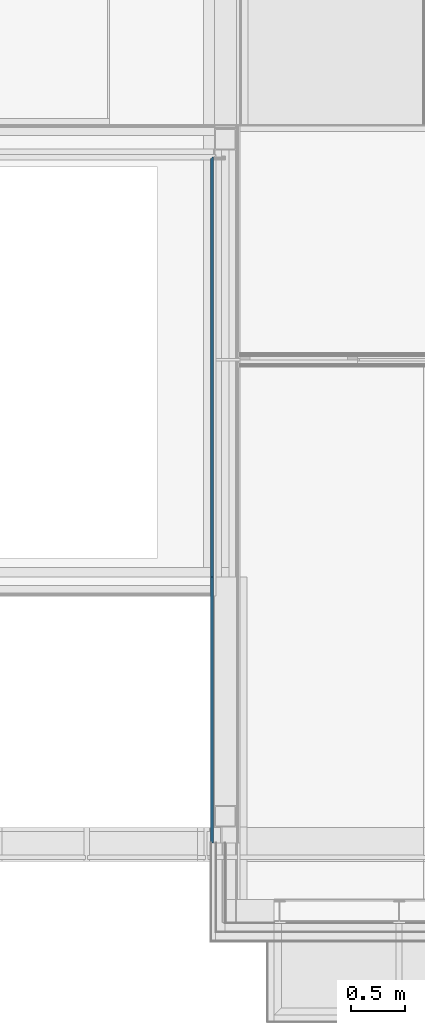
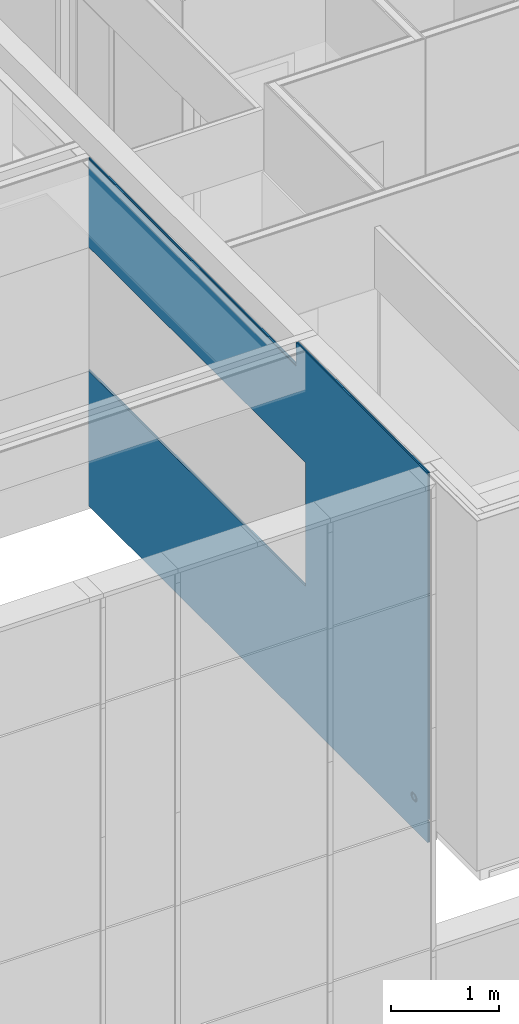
# One storey, part 65 of 137: 2 building element parts, 1 opening, 1 element without a shape of its own.
"""IFC2X3 building model written with IfcOpenShell, lengths in millimetres."""

import ifcopenshell
import ifcopenshell.guid

model = None  # the IFC model being written
_history = None  # IfcOwnerHistory: only IFC2X3 demands one
_inside = {}  # id of a spatial element -> (the spatial element, [elements in it])
_under = {}  # id of a project, library or spatial element -> (it, [spatial elements below it])
_declared = {}  # id of a project -> (the project, [libraries it declares])
_typed = {}  # id of a type object -> (the type object, [elements of that type])
_made_of = {}  # id of a material, layer set ... -> (it, [elements and type objects made of it])


def new_model(schema):
    """Start an empty IFC model of exactly this schema.

    Asked for "IFC4X3", IfcOpenShell would pick the latest addendum, in which some entities
    have other attributes; the version numbers below select the first issue.
    IFC2X3 requires an IfcOwnerHistory on every rooted entity: one is made here for all.
    """
    global model, _history
    if schema == "IFC4X3":
        model = ifcopenshell.file(schema_version=(4, 3, 0, 0))
    else:
        model = ifcopenshell.file(schema=schema)
    _inside.clear()
    _under.clear()
    _declared.clear()
    _typed.clear()
    _made_of.clear()
    _history = None
    if model.schema == "IFC2X3":
        org = make("IfcOrganization", Name="unknown")
        user = make(
            "IfcPersonAndOrganization",
            ThePerson=make("IfcPerson", FamilyName="unknown"),
            TheOrganization=org,
        )
        app = make(
            "IfcApplication",
            ApplicationDeveloper=org,
            Version="unknown",
            ApplicationFullName="unknown",
            ApplicationIdentifier="unknown",
        )
        _history = make(
            "IfcOwnerHistory",
            OwningUser=user,
            OwningApplication=app,
            ChangeAction="ADDED",
            CreationDate=0,
        )
    return model


def make(cls, **values):
    """One entity of the class cls with the attributes given. An attribute that is None is left unset."""
    return model.create_entity(
        cls, **{name: value for name, value in values.items() if value is not None}
    )


def entity(cls, *values):
    """Any entity or typed value of the class cls, its attributes in the order of the schema. None: left unset."""
    e = model.create_entity(cls)
    for i, value in enumerate(values):
        if value is not None:
            e[i] = value
    return e


def rooted(cls, **values):
    """An entity with a GlobalId (a new one), such as an element, a storey or a relation."""
    return make(cls, GlobalId=ifcopenshell.guid.new(), OwnerHistory=_history, **values)


def si_unit(unit_type, name, prefix=None):
    """IfcSIUnit, for example si_unit("LENGTHUNIT", "METRE", prefix="MILLI")."""
    return make("IfcSIUnit", UnitType=unit_type, Prefix=prefix, Name=name)


def converted_unit(unit_type, name, factor, base, dimensions=None, offset=None):
    """IfcConversionBasedUnit, such as the inch: factor (a typed value) times the base unit."""
    return make(
        "IfcConversionBasedUnit"
        if offset is None
        else "IfcConversionBasedUnitWithOffset",
        ConversionOffset=offset,
        Dimensions=None
        if dimensions is None
        else entity("IfcDimensionalExponents", *dimensions),
        UnitType=unit_type,
        Name=name,
        ConversionFactor=make(
            "IfcMeasureWithUnit", ValueComponent=factor, UnitComponent=base
        ),
    )


def derived_unit(unit_type, elements):
    """IfcDerivedUnit: a product of units, each with its exponent."""
    return make(
        "IfcDerivedUnit",
        Elements=[
            make("IfcDerivedUnitElement", Unit=unit, Exponent=power)
            for unit, power in elements
        ],
        UnitType=unit_type,
    )


def money_unit(currency):
    """IfcMonetaryUnit."""
    return make("IfcMonetaryUnit", Currency=currency)


def assignment(units):
    """IfcUnitAssignment: the units of a project."""
    return None if units is None else make("IfcUnitAssignment", Units=units)


def point(xyz):
    """IfcCartesianPoint."""
    return None if xyz is None else make("IfcCartesianPoint", Coordinates=xyz)


def direction(xyz):
    """IfcDirection."""
    return None if xyz is None else make("IfcDirection", DirectionRatios=xyz)


def frame(location, z_axis=None, x_axis=None):
    """IfcAxis2Placement3D, a coordinate frame: its origin and axes. An axis left out is left unset."""
    return make(
        "IfcAxis2Placement3D",
        Location=point(location),
        Axis=direction(z_axis),
        RefDirection=direction(x_axis),
    )


def origin_with_axes():
    """The frame at (0, 0, 0) with the z axis (0, 0, 1) and the x axis (1, 0, 0) written out."""
    return frame((0.0, 0.0, 0.0), z_axis=(0.0, 0.0, 1.0), x_axis=(1.0, 0.0, 0.0))


def place(relative_to, where):
    """IfcLocalPlacement: puts the frame where relative to a parent placement (None: the world)."""
    return make(
        "IfcLocalPlacement", PlacementRelTo=relative_to, RelativePlacement=where
    )


def context(
    kind, dimensions, precision=None, world=None, true_north=None, identifier=None
):
    """IfcGeometricRepresentationContext, for example the 3D "Model" context."""
    return make(
        "IfcGeometricRepresentationContext",
        ContextIdentifier=identifier,
        ContextType=kind,
        CoordinateSpaceDimension=dimensions,
        Precision=precision,
        WorldCoordinateSystem=world,
        TrueNorth=true_north,
    )


def subcontext(parent, identifier, kind, view, scale=None):
    """IfcGeometricRepresentationSubContext, for example "Body" below "Model"."""
    return make(
        "IfcGeometricRepresentationSubContext",
        ContextIdentifier=identifier,
        ContextType=kind,
        ParentContext=parent,
        TargetScale=scale,
        TargetView=view,
    )


def project(units=None, contexts=None):
    """IfcProject with its units and contexts."""
    return rooted(
        "IfcProject",
        Name="project",
        RepresentationContexts=contexts,
        UnitsInContext=assignment(units),
    )


def spatial(cls, under=None, at=None, **own):
    """A site, building, storey or space (cls), placed at a placement, below another one or the project."""
    s = rooted(cls, ObjectPlacement=at, **own)
    if under is not None:
        _under.setdefault(under.id(), (under, []))[1].append(s)
    return s


def faces_of(points, faces, orient=None, outer=None):
    """IfcFace entities. A face is a list of loops; a loop is a list of indices into points, from 0.

    orient and outer hold one flag for each loop. By default every Orientation is true, the
    first loop of a face is its IfcFaceOuterBound and the others are IfcFaceBound.
    """
    made = []
    for i, loops in enumerate(faces):
        bounds = []
        for j, loop in enumerate(loops):
            is_outer = j == 0 if outer is None else outer[i][j]
            bounds.append(
                make(
                    "IfcFaceOuterBound" if is_outer else "IfcFaceBound",
                    Bound=make("IfcPolyLoop", Polygon=[points[k] for k in loop]),
                    Orientation=True if orient is None else orient[i][j],
                )
            )
        made.append(make("IfcFace", Bounds=bounds))
    return made


def faceted_brep(points, faces, orient=None, outer=None, voids=None):
    """IfcFacetedBrep: a solid bounded by flat faces; with voids (closed shells), ...WithVoids."""
    shared = [point(p) for p in points]
    hull = make("IfcClosedShell", CfsFaces=faces_of(shared, faces, orient, outer))
    if voids is None:
        return make("IfcFacetedBrep", Outer=hull)
    return make(
        "IfcFacetedBrepWithVoids",
        Outer=hull,
        Voids=[
            make(cls, CfsFaces=faces_of(shared, fs, o, b)) for cls, fs, o, b in voids
        ],
    )


def shape(context_of_items, identifier, shape_type, items):
    """IfcShapeRepresentation: the items that make up one representation, for example the "Body"."""
    return make(
        "IfcShapeRepresentation",
        ContextOfItems=context_of_items,
        RepresentationIdentifier=identifier,
        RepresentationType=shape_type,
        Items=items,
    )


def material(Name=None, Category=None):
    """IfcMaterial."""
    return make("IfcMaterial", Name=Name, Category=Category)


def made_of(thing, what):
    """Note that an element or type object is made of a material, layer set ...; save() writes the relation."""
    if what is not None:
        _made_of.setdefault(what.id(), (what, []))[1].append(thing)
    return thing


def type_object(cls, material=None, **own):
    """A type object (cls), such as IfcWallType, which elements share."""
    return made_of(rooted(cls, **own), material)


def element(
    cls,
    number,
    at=None,
    inside=None,
    cuts=None,
    type_object=None,
    material=None,
    context=None,
    identifier="Body",
    shape_type=None,
    held_by="IfcProductDefinitionShape",
    body=None,
    shapes=None,
    **own,
):
    """One element of the class cls, such as IfcWall. Its Tag is "e" and its number.

    at: its placement. inside: the storey or other place that contains it. cuts: it is an
    opening in that element (IfcRelVoidsElement). A single representation is given by context,
    identifier, shape_type and body (its items); several are given by shapes. held_by: the class
    of the entity that holds the representations. save() writes the other relations.
    """
    e = rooted(cls, Tag="e%d" % number, ObjectPlacement=at, **own)
    if body is not None:
        shapes = [shape(context, identifier, shape_type, body)]
    if shapes is not None:
        e.Representation = make(held_by, Representations=shapes)
    if inside is not None:
        _inside.setdefault(inside.id(), (inside, []))[1].append(e)
    if cuts is not None:
        rooted(
            "IfcRelVoidsElement", RelatingBuildingElement=cuts, RelatedOpeningElement=e
        )
    if type_object is not None:
        _typed.setdefault(type_object.id(), (type_object, []))[1].append(e)
    return made_of(e, material)


def aggregate(whole, parts):
    """IfcRelAggregates: a whole, such as a stair, and the parts it consists of."""
    return rooted("IfcRelAggregates", RelatingObject=whole, RelatedObjects=parts)


def save(model, path):
    """Write the relations noted so far, then the file.

    IfcRelAggregates (storeys below a building ...), IfcRelContainedInSpatialStructure (elements
    in a storey), IfcRelDefinesByType, IfcRelAssociatesMaterial and IfcRelDeclares: one each for
    every whole, place, type object, material and project.
    """
    for whole, parts in _under.values():
        aggregate(whole, parts)
    for where, things in _inside.values():
        rooted(
            "IfcRelContainedInSpatialStructure",
            RelatedElements=things,
            RelatingStructure=where,
        )
    for kind, things in _typed.values():
        rooted("IfcRelDefinesByType", RelatedObjects=things, RelatingType=kind)
    for what, things in _made_of.values():
        rooted("IfcRelAssociatesMaterial", RelatedObjects=things, RelatingMaterial=what)
    for by, libraries in _declared.values():
        rooted("IfcRelDeclares", RelatingContext=by, RelatedDefinitions=libraries)
    model.write(path)


model = new_model("IFC2X3")

# Units and contexts
model_context = context("Model", 3, precision=0.01, world=origin_with_axes(), true_north=direction((0.0, 1.0)))
body_context = subcontext(model_context, "Body", "Model", "MODEL_VIEW")
ifc_project = project(units=[si_unit("LENGTHUNIT", "METRE", prefix="MILLI"), si_unit("AREAUNIT", "SQUARE_METRE"), si_unit("VOLUMEUNIT", "CUBIC_METRE"), converted_unit("PLANEANGLEUNIT", "DEGREE", entity("IfcPlaneAngleMeasure", 0.0174532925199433), si_unit("PLANEANGLEUNIT", "RADIAN"), dimensions=[0, 0, 0, 0, 0, 0, 0]), money_unit("EUR"), converted_unit("TIMEUNIT", "Year", entity("IfcTimeMeasure", 31556926.0), si_unit("TIMEUNIT", "SECOND"), dimensions=[0, 0, 1, 0, 0, 0, 0]), si_unit("MASSUNIT", "GRAM", prefix="KILO"), si_unit("THERMODYNAMICTEMPERATUREUNIT", "DEGREE_CELSIUS"), si_unit("LUMINOUSINTENSITYUNIT", "LUMEN"), si_unit("ENERGYUNIT", "JOULE", prefix="MEGA"), derived_unit("THERMALCONDUCTANCEUNIT", [(si_unit("POWERUNIT", "WATT"), 1), (si_unit("LENGTHUNIT", "METRE"), -1), (si_unit("THERMODYNAMICTEMPERATUREUNIT", "KELVIN"), -1)]), derived_unit("SPECIFICHEATCAPACITYUNIT", [(si_unit("ENERGYUNIT", "JOULE"), 1), (si_unit("MASSUNIT", "GRAM", prefix="KILO"), -1), (si_unit("THERMODYNAMICTEMPERATUREUNIT", "KELVIN"), -1)]), derived_unit("MASSDENSITYUNIT", [(si_unit("MASSUNIT", "GRAM", prefix="KILO"), 1), (si_unit("VOLUMEUNIT", "CUBIC_METRE"), -1)])], contexts=[model_context])

# Site, building, storey
site_placement = place(None, origin_with_axes())
site = spatial("IfcSite", under=ifc_project, at=site_placement, Name="Site", CompositionType="ELEMENT")
building_placement = place(site_placement, origin_with_axes())
building = spatial("IfcBuilding", under=site, at=building_placement, Name="Naam gebouw", CompositionType="ELEMENT")
storey_placement = place(building_placement, frame((0.0, 0.0, 3960.0), z_axis=(0.0, 0.0, 1.0), x_axis=(1.0, 0.0, 0.0)))
storey = spatial("IfcBuildingStorey", under=building, at=storey_placement, Name="1e verdieping", CompositionType="ELEMENT", Elevation=3960.0)

# Proxy, opening, building element parts
building_element_proxy_type = type_object("IfcBuildingElementProxyType", Name="22 Metal stud 270 270", PredefinedType="NOTDEFINED")
proxy_placement = place(storey_placement, frame((24499.99903999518, 4334.757636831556, -330.0000000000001), z_axis=(0.0, 0.0, 1.0), x_axis=(0.0, 1.0, 0.0)))
proxy = element("IfcBuildingElementProxy", 1, at=proxy_placement, inside=storey, type_object=building_element_proxy_type, Name="_Wand-x")
opening_placement = place(proxy_placement, frame((4277.742418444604, 0.0, 1530.0), z_axis=(0.0, 0.0, 1.0), x_axis=(1.0, 0.0, 0.0)))
element("IfcOpeningElement", 2, at=opening_placement, cuts=proxy, Name="_A.01b", context=body_context, shape_type="Brep", body=[
    faceted_brep([(-2007.500055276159, -136.0000000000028, 1400.0), (-2007.500055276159, -136.0000000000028, 0.0), (2332.50005527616, -136.0000000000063, 0.0), (2332.50005527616, -136.0000000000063, 1400.0), (-2007.500055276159, 136.0000000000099, 1400.0), (-2007.500055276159, 136.0000000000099, 0.0), (2006.296351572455, 136.0000000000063, 0.0), (2332.50005527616, -134.999999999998, 0.0), (2332.50005527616, -134.999999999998, 1400.0), (2006.296351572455, 136.0000000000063, 1400.0)], [[[0, 1, 2, 3]], [[4, 5, 1, 0]], [[5, 6, 7, 2, 1]], [[8, 3, 2, 7]], [[9, 4, 0, 3, 8]], [[6, 5, 4, 9]], [[7, 6, 9, 8]]]),
])
ifc_material = material(Name="Gipsplaat")
building_element_part_1_placement = place(proxy_placement, origin_with_axes())
building_element_part_1 = element("IfcBuildingElementPart", 3, at=building_element_part_1_placement, material=ifc_material, Name="Gipsplaat", context=body_context, shape_type="Brep", body=[
    faceted_brep([(2270.242363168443, 122.4999999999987, 1530.0), (2270.242363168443, 122.4999999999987, 2930.0), (6297.742473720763, 122.4999999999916, 2930.0), (6297.742473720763, 122.4999999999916, 3915.000029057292), (2445.242363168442, 122.4999999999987, 3915.000029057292), (2445.242363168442, 122.4999999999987, 3925.000029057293), (6297.742473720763, 122.4999999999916, 3925.000029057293), (6297.742473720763, 122.4999999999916, 3930.0), (6285.242473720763, 122.4999999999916, 3930.0), (2445.242363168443, 122.4999999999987, 3930.0), (2445.242363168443, 122.4999999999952, 4185.000047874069), (0.0, 122.4999999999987, 4185.000048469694), (0.0, 122.4999999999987, 259.9999978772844), (140.2423631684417, 122.4999999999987, 260.0000000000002), (140.2423631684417, 122.4999999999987, 230.0), (0.0, 122.4999999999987, 230.0), (0.0, 122.4999999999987, 0.0), (6297.742473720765, 122.4999999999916, 0.0), (6297.742473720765, 122.4999999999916, 1530.0), (213.8114667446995, 122.5000000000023, 396.430887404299), (228.2320845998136, 122.5000000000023, 406.0664362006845), (245.2423631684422, 122.5000000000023, 409.4499909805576), (255.7187340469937, 122.5000000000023, 407.3661112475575), (266.3446886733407, 122.5000000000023, 409.4499909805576), (283.5978434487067, 122.5000000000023, 406.0664362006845), (298.2243618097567, 122.5000000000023, 396.430887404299), (307.99748892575, 122.5000000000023, 382.010269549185), (311.4293547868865, 122.5000000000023, 364.9999909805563), (307.99748892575, 122.5000000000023, 347.9897124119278), (298.2243618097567, 122.5000000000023, 333.5690945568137), (283.5978434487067, 122.5000000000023, 323.9335457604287), (266.3446886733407, 122.5000000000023, 320.5499909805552), (255.7187340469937, 122.5000000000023, 322.6338707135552), (245.2423631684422, 122.5000000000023, 320.5499909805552), (228.2320845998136, 122.5000000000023, 323.9335457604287), (213.8114667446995, 122.5000000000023, 333.5690945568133), (204.175917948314, 122.5000000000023, 347.9897124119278), (200.7923631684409, 122.5000000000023, 364.9999909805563), (204.175917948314, 122.5000000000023, 382.010269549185), (2270.242363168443, 135.0000031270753, 1530.0), (2270.242363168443, 135.0000031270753, 2930.0), (6297.742473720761, 124.6153846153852, 2930.0), (6285.242469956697, 135.0000031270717, 2930.0), (6297.742473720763, 134.9999999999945, 2930.0), (6297.742473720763, 134.9999999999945, 3915.000029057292), (2445.242363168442, 135.0000000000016, 3915.000029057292), (2445.242363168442, 135.0000000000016, 3925.000029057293), (6297.742473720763, 134.9999999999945, 3925.000029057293), (6297.742473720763, 134.9999999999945, 3930.0), (6285.242473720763, 134.9999999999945, 3930.0), (2445.242363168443, 135.0000000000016, 3930.0), (2445.242363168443, 134.999999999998, 4185.000047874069), (0.0, 135.0000000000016, 4185.000048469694), (0.0, 128.0000000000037, 230.0), (0.0, 128.0000000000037, 259.9999997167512), (0.0, 135.0000000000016, 0.0), (140.2423631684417, 128.0000000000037, 260.0000000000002), (140.2423631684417, 128.0000000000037, 230.0), (6297.742473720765, 134.9999999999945, 0.0), (6297.742473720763, 124.6153846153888, 1530.0), (6297.742473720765, 134.9999999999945, 1530.0), (6285.242469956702, 135.0000031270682, 1530.0), (228.2320845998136, 135.0000000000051, 406.0664362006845), (213.8114667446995, 135.0000000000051, 396.430887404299), (245.2423631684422, 135.0000000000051, 409.4499909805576), (256.7711491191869, 135.0000000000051, 407.1567728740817), (268.4645454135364, 135.0000000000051, 409.4499909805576), (285.7177001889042, 135.0000000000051, 406.0664362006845), (300.3442185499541, 135.0000000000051, 396.430887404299), (310.1173456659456, 135.0000000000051, 382.010269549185), (313.5492115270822, 135.0000000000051, 364.9999909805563), (310.1173456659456, 135.0000000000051, 347.9897124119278), (300.3442185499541, 135.0000000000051, 333.5690945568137), (285.7177001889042, 135.0000000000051, 323.9335457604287), (268.4645454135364, 135.0000000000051, 320.5499909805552), (256.7711491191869, 135.0000000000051, 322.843209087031), (245.2423631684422, 135.0000000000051, 320.5499909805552), (228.2320845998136, 135.0000000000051, 323.9335457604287), (213.8114667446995, 135.0000000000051, 333.5690945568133), (204.175917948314, 135.0000000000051, 347.9897124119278), (200.7923631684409, 135.0000000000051, 364.9999909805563), (204.175917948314, 135.0000000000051, 382.010269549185)], [[[0, 1, 2, 3, 4, 5, 6, 7, 8, 9, 10, 11, 12, 13, 14, 15, 16, 17, 18], [19, 20, 21, 22, 23, 24, 25, 26, 27, 28, 29, 30, 31, 32, 33, 34, 35, 36, 37, 38]], [[1, 0, 39, 40]], [[41, 2, 1, 40, 42]], [[2, 41, 43, 44, 3]], [[45, 4, 3, 44]], [[46, 5, 4, 45]], [[46, 47, 6, 5]], [[7, 6, 47, 48]], [[7, 48, 49, 8]], [[49, 50, 9, 8]], [[9, 50, 51, 10]], [[52, 11, 10, 51]], [[16, 15, 53, 54, 12, 11, 52, 55]], [[12, 54, 56, 13]], [[13, 56, 57, 14]], [[14, 57, 53, 15]], [[17, 16, 55, 58]], [[59, 18, 17, 58, 60]], [[0, 18, 59, 61, 39]], [[62, 20, 19, 63]], [[64, 21, 20, 62]], [[64, 65, 22, 21]], [[23, 22, 65, 66]], [[67, 24, 23, 66]], [[68, 25, 24, 67]], [[69, 26, 25, 68]], [[70, 27, 26, 69]], [[71, 28, 27, 70]], [[72, 29, 28, 71]], [[73, 30, 29, 72]], [[74, 31, 30, 73]], [[74, 75, 32, 31]], [[76, 33, 32, 75]], [[77, 34, 33, 76]], [[78, 35, 34, 77]], [[79, 36, 35, 78]], [[80, 37, 36, 79]], [[81, 38, 37, 80]], [[63, 19, 38, 81]], [[39, 61, 60, 58, 55, 52, 51, 50, 49, 48, 47, 46, 45, 44, 43, 42, 40], [77, 76, 75, 74, 73, 72, 71, 70, 69, 68, 67, 66, 65, 64, 62, 63, 81, 80, 79, 78]], [[41, 42, 43]], [[53, 57, 56, 54]], [[61, 59, 60]]]),
    faceted_brep([(273.7401207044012, 122.5000000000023, 342.2737877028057), (280.7784855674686, 122.5000000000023, 356.8891029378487), (280.7784855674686, 122.5000000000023, 373.1108790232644), (273.7401207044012, 122.5000000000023, 387.726194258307), (261.0574254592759, 122.5000000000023, 397.8403062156), (255.7187340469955, 122.5000000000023, 399.0588276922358), (250.3038157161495, 122.5000000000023, 397.8403062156), (237.4400343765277, 122.5000000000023, 387.726194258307), (230.301174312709, 122.5000000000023, 373.1108790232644), (230.301174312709, 122.5000000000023, 356.8891029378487), (237.4400343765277, 122.5000000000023, 342.2737877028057), (250.3038157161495, 122.5000000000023, 332.1596757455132), (255.7187340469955, 122.5000000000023, 330.9411542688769), (261.0574254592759, 122.5000000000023, 332.1596757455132), (273.7401207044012, 135.0000000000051, 342.2737877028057), (280.7784855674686, 135.0000000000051, 356.8891029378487), (280.7784855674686, 135.0000000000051, 373.1108790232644), (273.7401207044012, 135.0000000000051, 387.726194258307), (261.0574254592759, 135.0000000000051, 397.8403062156), (256.7711491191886, 135.0000000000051, 398.8186208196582), (252.4236724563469, 135.0000000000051, 397.8403062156), (239.5598911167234, 135.0000000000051, 387.726194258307), (232.4210310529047, 135.0000000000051, 373.1108790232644), (232.4210310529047, 135.0000000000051, 356.8891029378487), (239.5598911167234, 135.0000000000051, 342.2737877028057), (252.4236724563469, 135.0000000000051, 332.1596757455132), (256.7711491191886, 135.0000000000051, 331.1813611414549), (261.0574254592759, 135.0000000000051, 332.1596757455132)], [[[0, 1, 2, 3, 4, 5, 6, 7, 8, 9, 10, 11, 12, 13]], [[1, 0, 14, 15]], [[2, 1, 15, 16]], [[3, 2, 16, 17]], [[4, 3, 17, 18]], [[5, 4, 18, 19]], [[5, 19, 20, 6]], [[7, 6, 20, 21]], [[8, 7, 21, 22]], [[9, 8, 22, 23]], [[10, 9, 23, 24]], [[11, 10, 24, 25]], [[26, 12, 11, 25]], [[13, 12, 26, 27]], [[0, 13, 27, 14]], [[27, 26, 25, 24, 23, 22, 21, 20, 19, 18, 17, 16, 15, 14]]]),
    faceted_brep([(243.6531237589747, 135.0000000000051, 401.0872574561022), (240.4094324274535, 122.5000000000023, 400.3469060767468), (234.465015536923, 122.5000000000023, 396.430887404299), (236.5848722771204, 135.0000000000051, 396.430887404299), (229.4273008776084, 122.5000000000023, 397.8403062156), (229.4273008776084, 135.0000000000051, 397.8403062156), (229.4273008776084, 122.5000000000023, 332.1596757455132), (240.4094324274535, 122.5000000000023, 329.6530758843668), (234.465015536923, 122.5000000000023, 333.5690945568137), (226.9143014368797, 122.5000000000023, 344.7104581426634), (226.9143014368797, 122.5000000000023, 385.2895238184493), (216.7446056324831, 122.5000000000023, 387.726194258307), (209.7062407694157, 122.5000000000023, 373.1108790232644), (209.7062407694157, 122.5000000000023, 356.8891029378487), (216.7446056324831, 122.5000000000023, 342.2737877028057), (224.7540187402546, 122.8663591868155, 382.010269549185), (226.8117451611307, 135.0000000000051, 382.010269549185), (223.3798792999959, 135.0000000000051, 364.9999909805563), (226.8117451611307, 135.0000000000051, 347.9897124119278), (236.5848722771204, 135.0000000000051, 333.5690945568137), (243.6531237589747, 135.0000000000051, 328.9127245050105), (229.4273008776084, 135.0000000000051, 332.1596757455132), (216.7446056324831, 135.0000000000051, 342.2737877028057), (209.7062407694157, 135.0000000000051, 356.8891029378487), (209.7062407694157, 135.0000000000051, 373.1108790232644), (216.7446056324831, 135.0000000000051, 387.726194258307), (224.7540187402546, 122.8663591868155, 347.9897124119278), (221.4180949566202, 123.4320936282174, 364.9999909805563)], [[[0, 1, 2, 3]], [[4, 1, 0, 5]], [[6, 7, 8, 9, 10, 2, 1, 4, 11, 12, 13, 14]], [[2, 10, 15, 16, 3]], [[5, 0, 3, 16, 17, 18, 19, 20, 21, 22, 23, 24, 25]], [[11, 4, 5, 25]], [[20, 7, 6, 21]], [[7, 20, 19, 8]], [[9, 8, 19, 18, 26]], [[10, 9, 26, 27, 15]], [[12, 11, 25, 24]], [[13, 12, 24, 23]], [[14, 13, 23, 22]], [[6, 14, 22, 21]], [[17, 16, 15, 27]], [[18, 17, 27, 26]]]),
    faceted_brep([(276.6732595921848, 122.5000000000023, 396.430887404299), (286.3088083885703, 122.5000000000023, 382.010269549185), (289.6923631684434, 122.5000000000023, 364.9999909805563), (286.3088083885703, 122.5000000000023, 347.9897124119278), (276.6732595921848, 122.5000000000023, 333.5690945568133), (270.592086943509, 122.5000000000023, 329.5057848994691), (282.385561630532, 122.5000000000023, 332.1596757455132), (295.2493429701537, 122.5000000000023, 342.2737877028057), (302.3882030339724, 122.5000000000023, 356.8891029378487), (302.3882030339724, 122.5000000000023, 373.1108790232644), (295.2493429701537, 122.5000000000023, 387.726194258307), (282.385561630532, 122.5000000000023, 397.8403062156), (270.592086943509, 122.5000000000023, 400.4941970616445), (276.6732595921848, 135.0000000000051, 396.430887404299), (286.3088083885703, 135.0000000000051, 382.010269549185), (289.6923631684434, 135.0000000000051, 364.9999909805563), (286.3088083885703, 135.0000000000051, 347.9897124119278), (276.6732595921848, 135.0000000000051, 333.5690945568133), (269.5156246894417, 135.0000000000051, 328.7865158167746), (284.5054183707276, 135.0000000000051, 332.1596757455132), (297.3691997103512, 135.0000000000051, 342.2737877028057), (304.5080597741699, 135.0000000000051, 356.8891029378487), (304.5080597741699, 135.0000000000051, 373.1108790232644), (297.3691997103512, 135.0000000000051, 387.726194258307), (284.5054183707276, 135.0000000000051, 397.8403062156), (269.5156246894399, 135.0000000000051, 401.2134661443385)], [[[0, 1, 2, 3, 4, 5, 6, 7, 8, 9, 10, 11, 12]], [[1, 0, 13, 14]], [[2, 1, 14, 15]], [[3, 2, 15, 16]], [[4, 3, 16, 17]], [[5, 4, 17, 18]], [[5, 18, 19, 6]], [[7, 6, 19, 20]], [[8, 7, 20, 21]], [[9, 8, 21, 22]], [[10, 9, 22, 23]], [[11, 10, 23, 24]], [[25, 12, 11, 24]], [[0, 12, 25, 13]], [[13, 25, 24, 23, 22, 21, 20, 19, 18, 17, 16, 15, 14]]]),
])
building_element_part_2_placement = place(proxy_placement, origin_with_axes())
building_element_part_2 = element("IfcBuildingElementPart", 4, at=building_element_part_2_placement, material=ifc_material, Name="Gipsplaat", context=body_context, shape_type="Brep", body=[
    faceted_brep([(2270.242363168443, 109.9999999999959, 1530.0), (2270.242363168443, 109.9999999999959, 2930.0), (6310.242473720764, 109.9999999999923, 2930.0), (6310.242473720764, 109.9999999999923, 3915.000029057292), (145.2423631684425, 109.9999999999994, 3914.999999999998), (145.2423631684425, 109.9999999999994, 3924.999999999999), (6310.242473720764, 109.9999999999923, 3925.000029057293), (6310.242473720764, 109.9999999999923, 3930.0), (6285.242473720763, 109.9999999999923, 3930.0), (2445.242363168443, 109.9999999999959, 3930.0), (2445.242363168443, 109.9999999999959, 4185.000047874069), (0.0, 109.9999999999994, 4185.000048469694), (0.0, 109.9999999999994, 259.9999978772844), (140.2423631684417, 109.9999999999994, 260.0000000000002), (140.2423631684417, 109.9999999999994, 230.0), (0.0, 109.9999999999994, 230.0), (0.0, 109.9999999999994, 0.0), (6310.242473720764, 109.9999999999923, 0.0), (6310.242473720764, 109.9999999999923, 1530.0), (300.622112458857, 109.9999999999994, 340.2349947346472), (300.622112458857, 109.9999999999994, 389.7649872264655), (305.8776321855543, 109.9999999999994, 382.010269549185), (309.309498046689, 109.9999999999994, 364.9999909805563), (305.8776321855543, 109.9999999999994, 347.9897124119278), (262.2526417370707, 109.9999999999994, 406.0664362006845), (276.6732595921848, 109.9999999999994, 396.430887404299), (286.3088083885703, 109.9999999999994, 382.010269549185), (289.6923631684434, 109.9999999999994, 364.9999909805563), (286.3088083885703, 109.9999999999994, 347.9897124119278), (276.6732595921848, 109.9999999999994, 333.5690945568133), (262.2526417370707, 109.9999999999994, 323.9335457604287), (245.2423631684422, 109.9999999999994, 320.5499909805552), (228.2320845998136, 109.9999999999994, 323.9335457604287), (213.8114667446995, 109.9999999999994, 333.5690945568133), (204.175917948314, 109.9999999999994, 347.9897124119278), (200.7923631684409, 109.9999999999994, 364.9999909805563), (204.175917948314, 109.9999999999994, 382.010269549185), (213.8114667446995, 109.9999999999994, 396.430887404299), (228.2320845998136, 109.9999999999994, 406.0664362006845), (245.2423631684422, 109.9999999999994, 409.4499909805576), (2270.242363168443, 122.4999999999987, 1530.0), (2270.242363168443, 122.4999999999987, 2930.0), (6310.242473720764, 114.2307692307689, 2930.0), (6300.288770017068, 122.4999999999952, 2930.0), (6310.242473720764, 122.4999999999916, 2930.0), (6310.242473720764, 122.4999999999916, 3915.000029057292), (2445.242363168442, 122.4999999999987, 3915.000029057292), (2445.242363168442, 116.0000000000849, 3915.000029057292), (145.2423631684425, 116.0000000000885, 3914.999999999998), (145.2423631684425, 116.0000000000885, 3924.999999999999), (2445.242363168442, 116.0000000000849, 3925.000029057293), (2445.242363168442, 122.4999999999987, 3925.000029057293), (6310.242473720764, 122.4999999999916, 3925.000029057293), (6310.242473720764, 122.4999999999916, 3930.0), (6285.242473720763, 122.4999999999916, 3930.0), (2445.242363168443, 122.4999999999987, 3930.0), (2445.242363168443, 122.4999999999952, 4185.000047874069), (0.0, 122.4999999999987, 4185.000048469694), (0.0, 122.4999999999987, 259.9999978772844), (140.2423631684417, 122.4999999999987, 260.0000000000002), (140.2423631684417, 122.4999999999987, 230.0), (0.0, 122.4999999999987, 230.0), (0.0, 122.4999999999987, 0.0), (6310.242473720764, 122.4999999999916, 0.0), (6310.242473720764, 114.2307692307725, 1530.0), (6310.242473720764, 122.4999999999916, 1530.0), (6300.288770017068, 122.4999999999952, 1530.0), (255.3132481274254, 117.683864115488, 322.5532145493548), (262.2526417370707, 116.5070224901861, 323.9335457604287), (271.239431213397, 114.9829659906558, 329.938326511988), (280.8347935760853, 113.3557025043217, 332.1596757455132), (293.338951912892, 111.2351405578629, 342.2737877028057), (300.2782362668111, 110.0583174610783, 356.8891029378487), (300.2782362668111, 110.0583174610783, 373.1108790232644), (293.338951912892, 111.2351405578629, 387.726194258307), (280.8347935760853, 113.3557025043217, 397.8403062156), (271.239431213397, 114.9829659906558, 400.0616554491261), (262.2526417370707, 116.5070224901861, 406.0664362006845), (255.3132481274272, 117.683864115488, 407.4467674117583), (265.2423631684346, 115.9999999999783, 409.4499909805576), (282.0131845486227, 113.1558609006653, 406.0664362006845), (296.2308004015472, 110.7447161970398, 396.430887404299), (296.2308004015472, 110.7447161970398, 333.5690945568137), (282.0131845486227, 113.1558609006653, 323.9335457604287), (265.2423631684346, 115.9999999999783, 320.5499909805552), (307.99748892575, 122.5000000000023, 382.010269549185), (298.2243618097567, 122.5000000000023, 396.430887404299), (311.4293547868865, 122.5000000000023, 364.9999909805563), (307.99748892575, 122.5000000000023, 347.9897124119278), (298.2243618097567, 122.5000000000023, 333.5690945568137), (276.6732595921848, 122.5000000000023, 396.430887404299), (270.592086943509, 122.5000000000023, 400.4941970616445), (286.3088083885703, 122.5000000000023, 382.010269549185), (289.6923631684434, 122.5000000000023, 364.9999909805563), (286.3088083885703, 122.5000000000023, 347.9897124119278), (276.6732595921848, 122.5000000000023, 333.5690945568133), (270.592086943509, 122.5000000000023, 329.5057848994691), (245.2423631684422, 122.5000000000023, 320.5499909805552), (255.7187340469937, 122.5000000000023, 322.6338707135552), (228.2320845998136, 122.5000000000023, 323.9335457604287), (213.8114667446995, 122.5000000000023, 333.5690945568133), (204.175917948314, 122.5000000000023, 347.9897124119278), (200.7923631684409, 122.5000000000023, 364.9999909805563), (204.175917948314, 122.5000000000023, 382.010269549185), (213.8114667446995, 122.5000000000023, 396.430887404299), (228.2320845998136, 122.5000000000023, 406.0664362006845), (245.2423631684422, 122.5000000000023, 409.4499909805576), (255.7187340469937, 122.5000000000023, 407.3661112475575), (266.3446886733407, 122.5000000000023, 320.5499909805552), (283.5978434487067, 122.5000000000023, 323.9335457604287), (283.5978434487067, 122.5000000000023, 406.0664362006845), (266.3446886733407, 122.5000000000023, 409.4499909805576), (282.385561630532, 122.5000000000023, 332.1596757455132), (295.2493429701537, 122.5000000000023, 342.2737877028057), (302.3882030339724, 122.5000000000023, 356.8891029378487), (302.3882030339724, 122.5000000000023, 373.1108790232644), (295.2493429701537, 122.5000000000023, 387.726194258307), (282.385561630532, 122.5000000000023, 397.8403062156)], [[[0, 1, 2, 3, 4, 5, 6, 7, 8, 9, 10, 11, 12, 13, 14, 15, 16, 17, 18], [19, 20, 21, 22, 23], [24, 25, 26, 27, 28, 29, 30, 31, 32, 33, 34, 35, 36, 37, 38, 39]], [[1, 0, 40, 41]], [[42, 2, 1, 41, 43]], [[2, 42, 44, 45, 3]], [[4, 3, 45, 46, 47, 48]], [[49, 5, 4, 48]], [[49, 50, 51, 52, 6, 5]], [[7, 6, 52, 53]], [[7, 53, 54, 8]], [[54, 55, 9, 8]], [[9, 55, 56, 10]], [[57, 11, 10, 56]], [[12, 11, 57, 58]], [[12, 58, 59, 13]], [[13, 59, 60, 14]], [[14, 60, 61, 15]], [[61, 62, 16, 15]], [[17, 16, 62, 63]], [[64, 18, 17, 63, 65]], [[0, 18, 64, 66, 40]], [[67, 68, 69, 70, 71, 72, 73, 74, 75, 76, 77, 78, 79, 80, 81, 20, 19, 82, 83, 84]], [[85, 21, 20, 81, 86]], [[87, 22, 21, 85]], [[88, 23, 22, 87]], [[82, 19, 23, 88, 89]], [[90, 25, 24, 77, 76, 91]], [[92, 26, 25, 90]], [[93, 27, 26, 92]], [[94, 28, 27, 93]], [[95, 29, 28, 94]], [[68, 30, 29, 95, 96, 69]], [[97, 31, 30, 68, 67, 98]], [[99, 32, 31, 97]], [[100, 33, 32, 99]], [[101, 34, 33, 100]], [[102, 35, 34, 101]], [[103, 36, 35, 102]], [[104, 37, 36, 103]], [[105, 38, 37, 104]], [[106, 39, 38, 105]], [[77, 24, 39, 106, 107, 78]], [[40, 66, 65, 63, 62, 61, 60, 59, 58, 57, 56, 55, 54, 53, 52, 51, 46, 45, 44, 43, 41], [99, 97, 98, 108, 109, 89, 88, 87, 85, 86, 110, 111, 107, 106, 105, 104, 103, 102, 101, 100]], [[42, 43, 44]], [[51, 50, 47, 46]], [[48, 47, 50, 49]], [[66, 64, 65]], [[70, 69, 96, 112]], [[70, 112, 113, 71]], [[71, 113, 114, 72]], [[72, 114, 115, 73]], [[73, 115, 116, 74]], [[74, 116, 117, 75]], [[117, 91, 76, 75]], [[79, 78, 107, 111]], [[79, 111, 110, 80]], [[80, 110, 86, 81]], [[82, 89, 109, 83]], [[83, 109, 108, 84]], [[108, 98, 67, 84]], [[92, 90, 91, 117, 116, 115, 114, 113, 112, 96, 95, 94, 93]]]),
    faceted_brep([(239.8405801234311, 120.3078512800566, 400.2170692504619), (245.2423631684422, 119.39177078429, 401.4499909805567), (255.3132481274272, 117.683864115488, 399.1513772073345), (249.6499327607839, 118.644297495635, 397.8403062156), (237.1457744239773, 120.7648594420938, 387.726194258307), (230.2064900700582, 121.9416825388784, 373.1108790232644), (230.2064900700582, 121.9416825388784, 356.8891029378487), (237.1457744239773, 120.7648594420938, 342.2737877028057), (249.6499327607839, 118.644297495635, 332.1596757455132), (255.3132481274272, 117.683864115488, 330.8486047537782), (245.2423631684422, 119.39177078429, 328.5499909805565), (239.8405801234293, 120.3078512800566, 329.7829127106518), (234.253925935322, 121.2552838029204, 333.5690945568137), (226.9143014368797, 122.5000000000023, 344.7104581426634), (226.9143014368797, 122.5000000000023, 385.2895238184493), (234.253925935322, 121.2552838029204, 396.430887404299), (229.4273008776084, 109.9999999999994, 397.8403062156), (245.2423631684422, 109.9999999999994, 401.4499909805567), (240.4094324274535, 122.5000000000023, 400.3469060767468), (229.4273008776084, 122.5000000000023, 397.8403062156), (261.0574254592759, 109.9999999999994, 397.8403062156), (261.0574254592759, 122.5000000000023, 397.8403062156), (255.7187340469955, 122.5000000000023, 399.0588276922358), (250.3038157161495, 122.5000000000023, 397.8403062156), (237.4400343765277, 122.5000000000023, 387.726194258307), (230.301174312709, 122.5000000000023, 373.1108790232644), (230.301174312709, 122.5000000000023, 356.8891029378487), (237.4400343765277, 122.5000000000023, 342.2737877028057), (250.3038157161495, 122.5000000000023, 332.1596757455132), (255.7187340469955, 122.5000000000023, 330.9411542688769), (261.0574254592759, 109.9999999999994, 332.1596757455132), (245.2423631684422, 109.9999999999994, 328.5499909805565), (261.0574254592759, 122.5000000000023, 332.1596757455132), (229.4273008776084, 109.9999999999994, 332.1596757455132), (229.4273008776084, 122.5000000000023, 332.1596757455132), (240.4094324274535, 122.5000000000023, 329.6530758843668), (234.465015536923, 122.5000000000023, 333.5690945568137), (234.465015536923, 122.5000000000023, 396.430887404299), (216.7446056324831, 122.5000000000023, 342.2737877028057), (209.7062407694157, 122.5000000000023, 356.8891029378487), (209.7062407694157, 122.5000000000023, 373.1108790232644), (216.7446056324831, 122.5000000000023, 387.726194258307), (273.7401207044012, 109.9999999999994, 342.2737877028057), (280.7784855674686, 109.9999999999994, 356.8891029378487), (280.7784855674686, 109.9999999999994, 373.1108790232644), (273.7401207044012, 109.9999999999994, 387.726194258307), (216.7446056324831, 109.9999999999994, 387.726194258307), (209.7062407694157, 109.9999999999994, 373.1108790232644), (209.7062407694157, 109.9999999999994, 356.8891029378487), (216.7446056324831, 109.9999999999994, 342.2737877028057), (273.7401207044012, 122.5000000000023, 387.726194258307), (280.7784855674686, 122.5000000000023, 373.1108790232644), (280.7784855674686, 122.5000000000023, 356.8891029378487), (273.7401207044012, 122.5000000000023, 342.2737877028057)], [[[0, 1, 2, 3, 4, 5, 6, 7, 8, 9, 10, 11, 12, 13, 14, 15]], [[16, 17, 1, 0, 18, 19]], [[17, 20, 21, 22, 2, 1]], [[2, 22, 23, 3]], [[23, 24, 4, 3]], [[24, 25, 5, 4]], [[25, 26, 6, 5]], [[26, 27, 7, 6]], [[27, 28, 8, 7]], [[29, 9, 8, 28]], [[30, 31, 10, 9, 29, 32]], [[31, 33, 34, 35, 11, 10]], [[11, 35, 36, 12]], [[36, 13, 12]], [[19, 18, 37, 14, 13, 36, 35, 34, 38, 39, 40, 41]], [[14, 37, 15]], [[18, 0, 15, 37]], [[42, 43, 44, 45, 20, 17, 16, 46, 47, 48, 49, 33, 31, 30]], [[46, 16, 19, 41]], [[20, 45, 50, 21]], [[32, 29, 28, 27, 26, 25, 24, 23, 22, 21, 50, 51, 52, 53]], [[42, 30, 32, 53]], [[33, 49, 38, 34]], [[49, 48, 39, 38]], [[48, 47, 40, 39]], [[47, 46, 41, 40]], [[43, 42, 53, 52]], [[44, 43, 52, 51]], [[45, 44, 51, 50]]]),
])
aggregate(proxy, [building_element_part_1, building_element_part_2])

save(model, "model.ifc")
